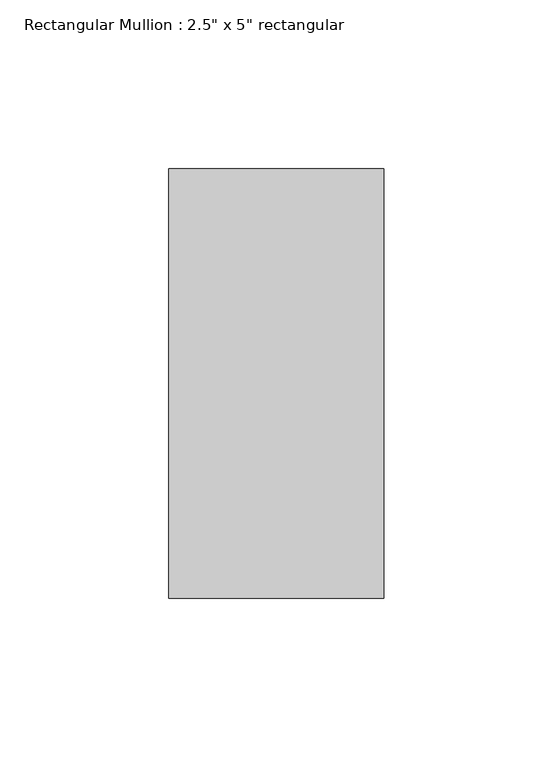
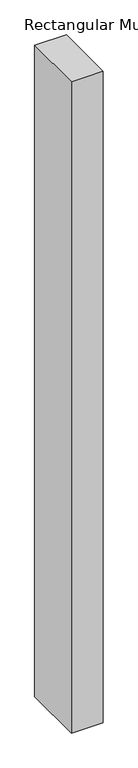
"""IFC4 building model written with IfcOpenShell, lengths in millimetres: member geometry."""

from ifc_helpers import new_model, si_unit, frame, origin, place, context, project, spatial, polyline, outline, extrude, source, transform, mapped, element, save


def member_daf2c2e2(model_context):
    return source(origin(), model_context, "Body", "SweptSolid", [
        extrude(outline(polyline([(0.0, 63.5), (0.0, -63.5), (-63.5, -63.5), (-63.5, 63.5), (0.0, 63.5)])), frame((0.0, 0.0, -1375.8333331), z_axis=(0.0, 0.0, 1.0), x_axis=(1.0, 0.0, 0.0)), (0.0, 0.0, 1.0), 1375.8333331),
    ])


if __name__ == "__main__":
    model = new_model("IFC4")
    model_context = context("Model", 3, world=origin())
    ifc_project = project(units=[si_unit("LENGTHUNIT", "METRE", prefix="MILLI")], contexts=[model_context])
    site = spatial("IfcSite", under=ifc_project)
    building = spatial("IfcBuilding", under=site)
    placement = place(None, origin())
    member_shape = member_daf2c2e2(model_context)
    element("IfcMember", 1, ObjectType="Rectangular Mullion : 2.5\" x 5\" rectangular", at=placement, inside=building, context=model_context, shape_type="MappedRepresentation", body=[
        mapped(member_shape, transform((0.0, 0.0, 0.0), x_axis=(1.0, 0.0, 0.0), y_axis=(0.0, 1.0, 0.0), z_axis=(0.0, 0.0, 1.0))),
    ])
    save(model, "model.ifc")
